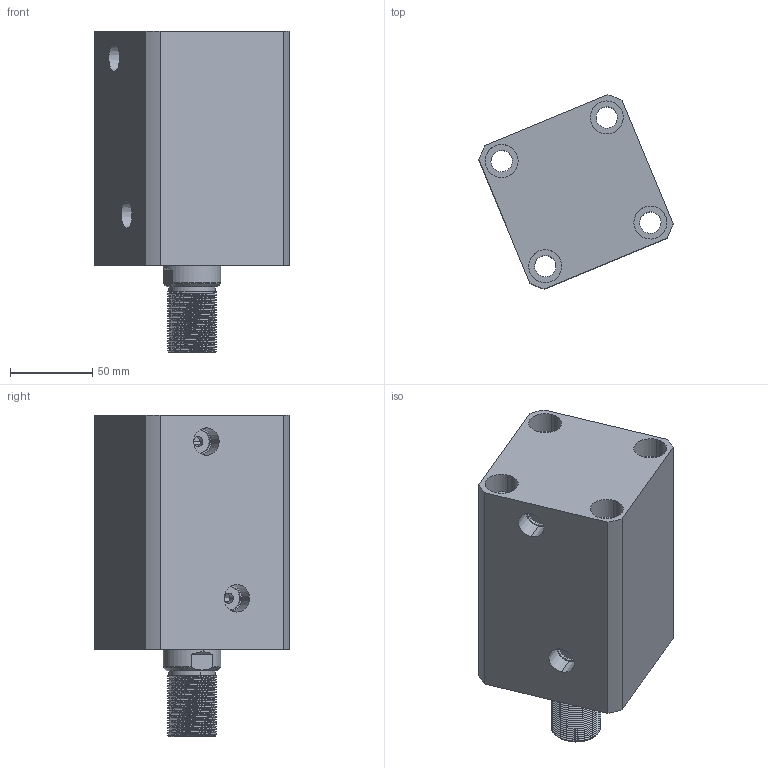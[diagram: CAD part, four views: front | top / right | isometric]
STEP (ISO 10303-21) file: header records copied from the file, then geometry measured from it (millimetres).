
FILE_DESCRIPTION (( 'STEP AP214' ), '1' );
FILE_NAME ('chtb-sd63x75w_asm.STEP', '2018-05-19T02:01:38', ( 'Windows' ), ( 'Microsoft' ), 'SwSTEP 2.0', 'SolidWorks 2015', '' );
FILE_SCHEMA (( 'AUTOMOTIVE_DESIGN' ));
Length unit declared in the file: millimetre
Products named in the file (4): chtb-sd63x75w_asm; CHTB63X75WHSG; CHTB63X75NBT; CHTB-63QG
Assembly tree (3 placements, depth 2):
  chtb-sd63x75w_asm
    CHTB-63QG
    CHTB63X75NBT
    CHTB63X75WHSG
Bounding box: 117.81 x 117.81 x 195 mm (x, y, z)
Volume: 1021586.7 mm3; surface area: 170310.7 mm2
Topology: 3 solids, 3 shells, 219 faces, 625 edges, 427 vertices
Faces by surface type: cylinder 150, plane 36, bspline 14, cone 13, torus 6
Entity records: 22208 total; most frequent: CARTESIAN_POINT 16953, ORIENTED_EDGE 1242, DIRECTION 881, EDGE_CURVE 621, VERTEX_POINT 427, AXIS2_PLACEMENT_3D 346, EDGE_LOOP 252, ADVANCED_FACE 219
